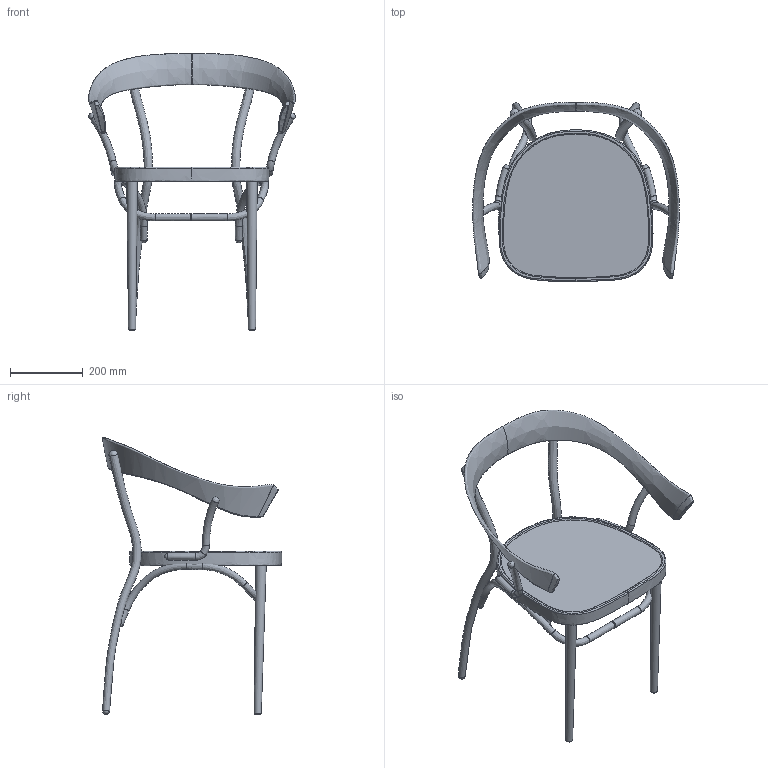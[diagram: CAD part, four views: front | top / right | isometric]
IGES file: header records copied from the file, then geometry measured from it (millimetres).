
Global section: file name: \\192.168.4.99\ufficio_tecnico\01 - RICERCA E SVILUPPO\01 - NUOVI PROGETTI\07 - NIGEL\MODELLO 3D BISTROTSTHUL\BISTROTSTUHL.igs; native system: Rhinoceros ( Aug 10 2015 ); preprocessor: Trout Lake IGES 012 Aug 10 2015; date: 160614.101051; units: millimetre
Bounding box: 568.58 x 493.46 x 762.91 mm (x, y, z)
Surface area: 766591.8 mm2 (no closed solid volume)
Topology: 0 solids, 0 shells, 61 faces, 450 edges, 407 vertices
Faces by surface type: bspline 61
